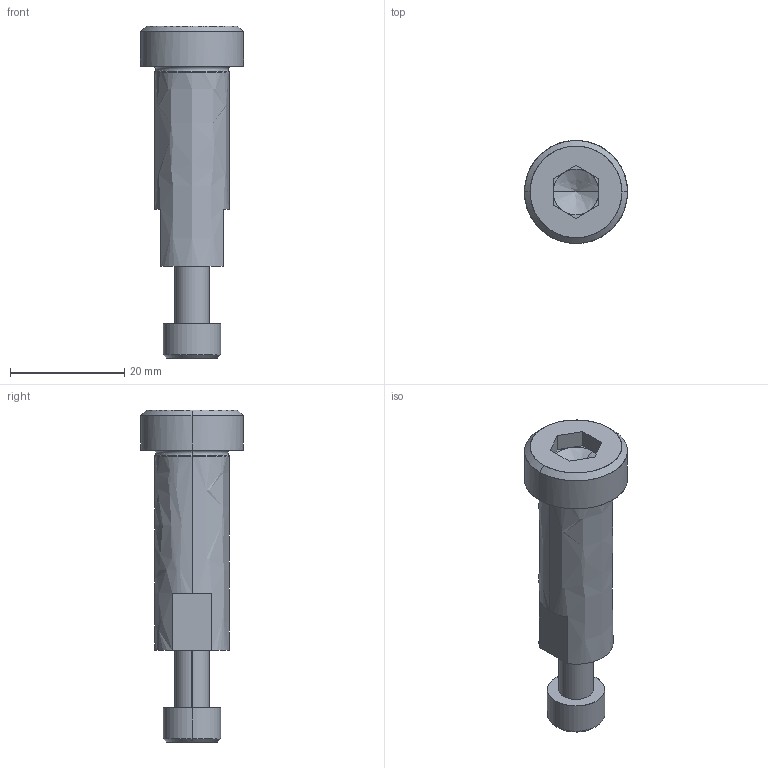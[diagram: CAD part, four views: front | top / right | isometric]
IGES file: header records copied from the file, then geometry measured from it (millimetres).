
Global section: file name: E:\UnigraphicsGraphicData\MISUMI_PRESS-PARTS\IGES\3d_sbt13-35_05074_r00.igs; native system: NX V5.0; preprocessor: UGS NX IGES V5.0; author: MISUMI; date: 20110105.162434; units: millimetre
Bounding box: 18 x 18 x 58 mm (x, y, z)
Surface area: 3562.2 mm2 (no closed solid volume)
Topology: 0 solids, 0 shells, 56 faces, 310 edges, 306 vertices
Faces by surface type: bspline 56
